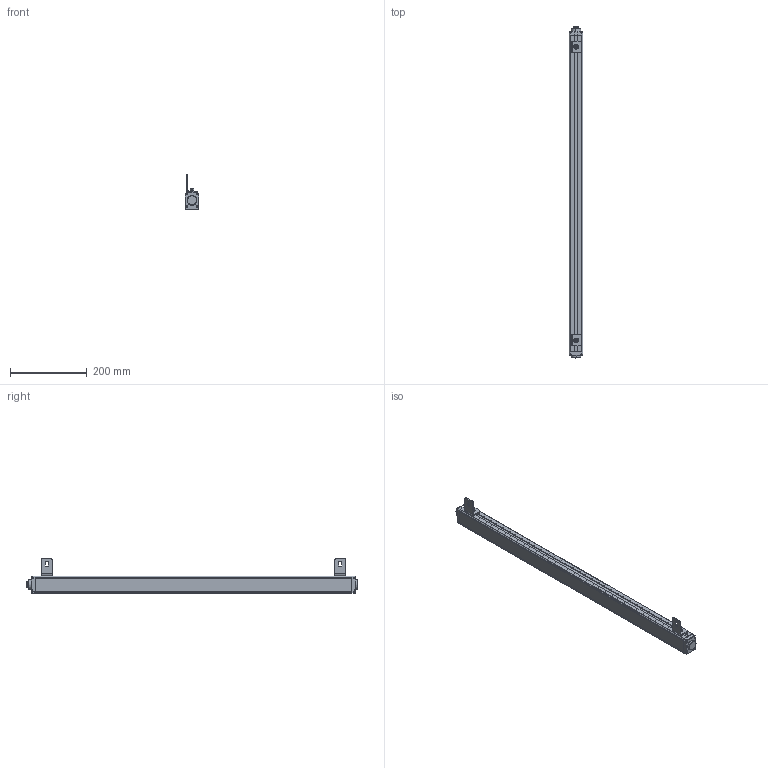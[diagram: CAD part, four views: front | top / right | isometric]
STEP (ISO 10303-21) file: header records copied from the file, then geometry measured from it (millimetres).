
FILE_DESCRIPTION((''),'2;1');
FILE_NAME('ESCL-00_ASM','2021-07-17T11:07:28',('18720616900'),(''),'CREO PARAMETRIC BY PTC INC, 2019010','CREO PARAMETRIC BY PTC INC, 2019010','');
FILE_SCHEMA(('CONFIG_CONTROL_DESIGN'));
Products named in the file (12): ESCL-00; ESCL-3-SOLID1000; ESCL-4-SOLID1000; HKCT1_-4-SOLID1; L10001; M6-8--0001; M6-1--00; M6-1-00; 00; M6-80001_ASM; L1--0001_ASM; ESCL-00_ASM
Assembly tree (12 placements, depth 4):
  ESCL-00_ASM
    ESCL-00
    ESCL-3-SOLID1000
    ESCL-4-SOLID1000
    HKCT1_-4-SOLID1
    L1--0001_ASM  x2
      L10001
      M6-80001_ASM
        M6-8--0001
        M6-1--00
        M6-1-00
        00
Bounding box: 36.1 x 865.1 x 91.11 mm (x, y, z)
Volume: 1233788.4 mm3; surface area: 189967.5 mm2
Topology: 14 solids, 14 shells, 625 faces, 1645 edges, 1070 vertices
Faces by surface type: plane 226, cylinder 208, cone 78, bspline 66, torus 47
Entity records: 76177 total; most frequent: CARTESIAN_POINT 63991, ORIENTED_EDGE 2664, DIRECTION 2275, EDGE_CURVE 1332, VERTEX_POINT 872, AXIS2_PLACEMENT_3D 816, VECTOR 643, LINE 643
